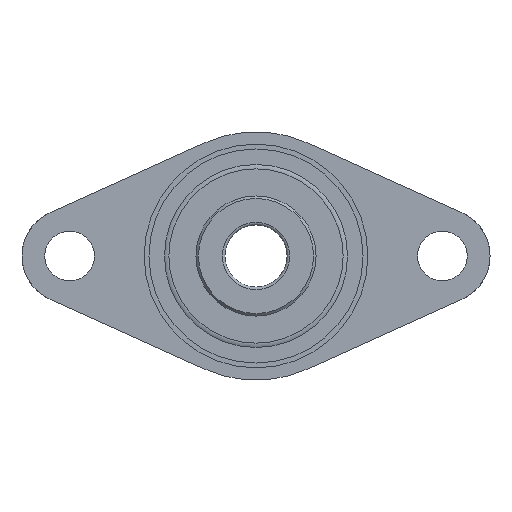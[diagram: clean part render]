
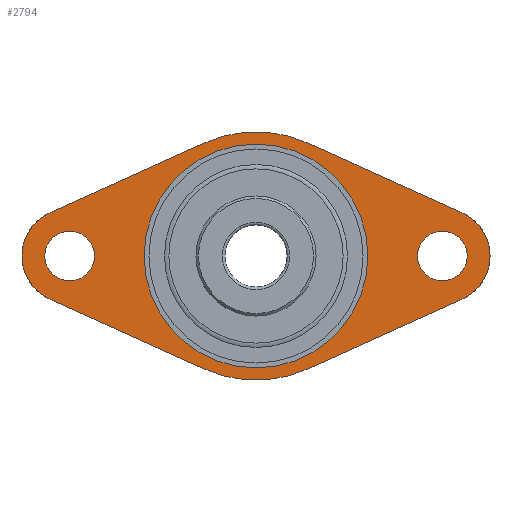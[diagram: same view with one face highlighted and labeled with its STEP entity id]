
A CAD part, left-side view. The second image highlights one B-rep face of the part: STEP entity #2794.
In plain terms, the highlighted planar face has unit normal (-1, 0, 0).
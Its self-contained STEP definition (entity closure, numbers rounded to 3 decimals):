
#1 = ORIENTED_EDGE ( 'NONE', *, *, #2170, .F. ) ;
#42 = CARTESIAN_POINT ( 'NONE',  ( -15., -49.728, 10.483 ) ) ;
#50 = VERTEX_POINT ( 'NONE', #557 ) ;
#51 = DIRECTION ( 'NONE',  ( 0., 0.912, 0.411 ) ) ;
#79 = EDGE_LOOP ( 'NONE', ( #1059 ) ) ;
#85 = ORIENTED_EDGE ( 'NONE', *, *, #2234, .T. ) ;
#110 = CARTESIAN_POINT ( 'NONE',  ( -15., -12.333, -27.348 ) ) ;
#165 = CARTESIAN_POINT ( 'NONE',  ( -15., 12.333, -27.348 ) ) ;
#220 = CARTESIAN_POINT ( 'NONE',  ( -15., 49.728, 10.483 ) ) ;
#243 = CARTESIAN_POINT ( 'NONE',  ( -15., 49.728, 10.483 ) ) ;
#244 = CARTESIAN_POINT ( 'NONE',  ( -15., 45., -6. ) ) ;
#245 = CARTESIAN_POINT ( 'NONE',  ( -15., 0., -27. ) ) ;
#247 = CARTESIAN_POINT ( 'NONE',  ( -15., -45., -6. ) ) ;
#260 = DIRECTION ( 'NONE',  ( 0., -0.912, 0.411 ) ) ;
#283 = CARTESIAN_POINT ( 'NONE',  ( -15., -49.728, 10.483 ) ) ;
#313 = CARTESIAN_POINT ( 'NONE',  ( -15., 0., 0. ) ) ;
#318 = DIRECTION ( 'NONE',  ( 1., 0., 0. ) ) ;
#319 = DIRECTION ( 'NONE',  ( 0., 0., -1. ) ) ;
#377 = CARTESIAN_POINT ( 'NONE',  ( -15., 12.333, 27.348 ) ) ;
#384 = ORIENTED_EDGE ( 'NONE', *, *, #2325, .F. ) ;
#450 = ORIENTED_EDGE ( 'NONE', *, *, #2232, .T. ) ;
#452 = VERTEX_POINT ( 'NONE', #244 ) ;
#455 = VERTEX_POINT ( 'NONE', #245 ) ;
#460 = VERTEX_POINT ( 'NONE', #247 ) ;
#544 = DIRECTION ( 'NONE',  ( 0., 0., -1. ) ) ;
#547 = DIRECTION ( 'NONE',  ( 1., 0., 0. ) ) ;
#557 = CARTESIAN_POINT ( 'NONE',  ( -15., 49.728, -10.483 ) ) ;
#558 = PLANE ( 'NONE',  #813 ) ;
#567 = CARTESIAN_POINT ( 'NONE',  ( -15., 0., 0. ) ) ;
#618 = FACE_BOUND ( 'NONE', #1495, .T. ) ;
#620 = FACE_OUTER_BOUND ( 'NONE', #644, .T. ) ;
#633 = FACE_BOUND ( 'NONE', #2724, .T. ) ;
#638 = FACE_BOUND ( 'NONE', #79, .T. ) ;
#644 = EDGE_LOOP ( 'NONE', ( #1917, #978, #1091, #996, #1133, #384, #2091, #1 ) ) ;
#777 = CARTESIAN_POINT ( 'NONE',  ( -15., 0., 0. ) ) ;
#813 = AXIS2_PLACEMENT_3D ( 'NONE', #567, #547, #544 ) ;
#903 = DIRECTION ( 'NONE',  ( 1., 0., 0. ) ) ;
#937 = DIRECTION ( 'NONE',  ( 0., 0., -1. ) ) ;
#978 = ORIENTED_EDGE ( 'NONE', *, *, #2318, .F. ) ;
#996 = ORIENTED_EDGE ( 'NONE', *, *, #2095, .F. ) ;
#1043 = DIRECTION ( 'NONE',  ( 1., 0., 0. ) ) ;
#1057 = DIRECTION ( 'NONE',  ( 0., 0., -1. ) ) ;
#1059 = ORIENTED_EDGE ( 'NONE', *, *, #2285, .T. ) ;
#1091 = ORIENTED_EDGE ( 'NONE', *, *, #2224, .T. ) ;
#1125 = CIRCLE ( 'NONE', #1271, 11.5 ) ;
#1133 = ORIENTED_EDGE ( 'NONE', *, *, #2085, .F. ) ;
#1137 = CIRCLE ( 'NONE', #1275, 11.5 ) ;
#1170 = VECTOR ( 'NONE', #1871, 1000. ) ;
#1188 = CIRCLE ( 'NONE', #1298, 6. ) ;
#1194 = LINE ( 'NONE', #2104, #1170 ) ;
#1218 = CIRCLE ( 'NONE', #1330, 6. ) ;
#1225 = EDGE_CURVE ( 'E376', #50, #2051, #1653, .T. ) ;
#1228 = CIRCLE ( 'NONE', #1329, 27. ) ;
#1239 = VECTOR ( 'NONE', #51, 1000. ) ;
#1243 = CARTESIAN_POINT ( 'NONE',  ( -15., 49.728, -10.483 ) ) ;
#1250 = CARTESIAN_POINT ( 'NONE',  ( -15., 0., 0. ) ) ;
#1257 = LINE ( 'NONE', #42, #1239 ) ;
#1271 = AXIS2_PLACEMENT_3D ( 'NONE', #1537, #1600, #2559 ) ;
#1275 = AXIS2_PLACEMENT_3D ( 'NONE', #1428, #2526, #1679 ) ;
#1293 = DIRECTION ( 'NONE',  ( 1., 0., 0. ) ) ;
#1298 = AXIS2_PLACEMENT_3D ( 'NONE', #2289, #2323, #2341 ) ;
#1303 = CIRCLE ( 'NONE', #1374, 30. ) ;
#1322 = DIRECTION ( 'NONE',  ( 0., 0., -1. ) ) ;
#1329 = AXIS2_PLACEMENT_3D ( 'NONE', #777, #1043, #1057 ) ;
#1330 = AXIS2_PLACEMENT_3D ( 'NONE', #2481, #903, #937 ) ;
#1357 = DIRECTION ( 'NONE',  ( 0., -0.912, -0.411 ) ) ;
#1374 = AXIS2_PLACEMENT_3D ( 'NONE', #1250, #1293, #1322 ) ;
#1385 = VECTOR ( 'NONE', #260, 1000. ) ;
#1393 = LINE ( 'NONE', #243, #1385 ) ;
#1402 = CIRCLE ( 'NONE', #1420, 30. ) ;
#1420 = AXIS2_PLACEMENT_3D ( 'NONE', #313, #318, #319 ) ;
#1428 = CARTESIAN_POINT ( 'NONE',  ( -15., -45., 0. ) ) ;
#1495 = EDGE_LOOP ( 'NONE', ( #85 ) ) ;
#1537 = CARTESIAN_POINT ( 'NONE',  ( -15., 45., 0. ) ) ;
#1541 = CARTESIAN_POINT ( 'NONE',  ( -15., -49.728, -10.483 ) ) ;
#1600 = DIRECTION ( 'NONE',  ( 1., 0., 0. ) ) ;
#1653 = LINE ( 'NONE', #1243, #1664 ) ;
#1664 = VECTOR ( 'NONE', #1357, 1000. ) ;
#1679 = DIRECTION ( 'NONE',  ( 0., 0., -1. ) ) ;
#1705 = CARTESIAN_POINT ( 'NONE',  ( -15., -12.333, 27.348 ) ) ;
#1871 = DIRECTION ( 'NONE',  ( 0., 0.912, -0.411 ) ) ;
#1917 = ORIENTED_EDGE ( 'NONE', *, *, #2277, .F. ) ;
#1977 = VERTEX_POINT ( 'NONE', #110 ) ;
#2051 = VERTEX_POINT ( 'NONE', #165 ) ;
#2081 = VERTEX_POINT ( 'NONE', #220 ) ;
#2085 = EDGE_CURVE ( 'E193', #2081, #2120, #1393, .T. ) ;
#2091 = ORIENTED_EDGE ( 'NONE', *, *, #1225, .T. ) ;
#2095 = EDGE_CURVE ( 'E214', #2120, #2193, #1402, .T. ) ;
#2100 = VERTEX_POINT ( 'NONE', #283 ) ;
#2104 = CARTESIAN_POINT ( 'NONE',  ( -15., -49.728, -10.483 ) ) ;
#2120 = VERTEX_POINT ( 'NONE', #377 ) ;
#2170 = EDGE_CURVE ( 'E350', #1977, #2051, #1303, .T. ) ;
#2193 = VERTEX_POINT ( 'NONE', #1705 ) ;
#2224 = EDGE_CURVE ( 'E240', #2100, #2193, #1257, .T. ) ;
#2232 = EDGE_CURVE ( 'NONE', #460, #460, #1218, .T. ) ;
#2234 = EDGE_CURVE ( 'NONE', #455, #455, #1228, .T. ) ;
#2277 = EDGE_CURVE ( 'E329', #2640, #1977, #1194, .T. ) ;
#2285 = EDGE_CURVE ( 'NONE', #452, #452, #1188, .T. ) ;
#2289 = CARTESIAN_POINT ( 'NONE',  ( -15., 45., 0. ) ) ;
#2318 = EDGE_CURVE ( 'E246', #2100, #2640, #1137, .T. ) ;
#2323 = DIRECTION ( 'NONE',  ( 1., 0., 0. ) ) ;
#2325 = EDGE_CURVE ( 'E382', #50, #2081, #1125, .T. ) ;
#2341 = DIRECTION ( 'NONE',  ( 0., 0., -1. ) ) ;
#2481 = CARTESIAN_POINT ( 'NONE',  ( -15., -45., 0. ) ) ;
#2526 = DIRECTION ( 'NONE',  ( 1., 0., 0. ) ) ;
#2559 = DIRECTION ( 'NONE',  ( 0., 0., -1. ) ) ;
#2640 = VERTEX_POINT ( 'NONE', #1541 ) ;
#2724 = EDGE_LOOP ( 'NONE', ( #450 ) ) ;
#2794 = ADVANCED_FACE ( 'E454', ( #618, #633, #638, #620 ), #558, .F. ) ;
